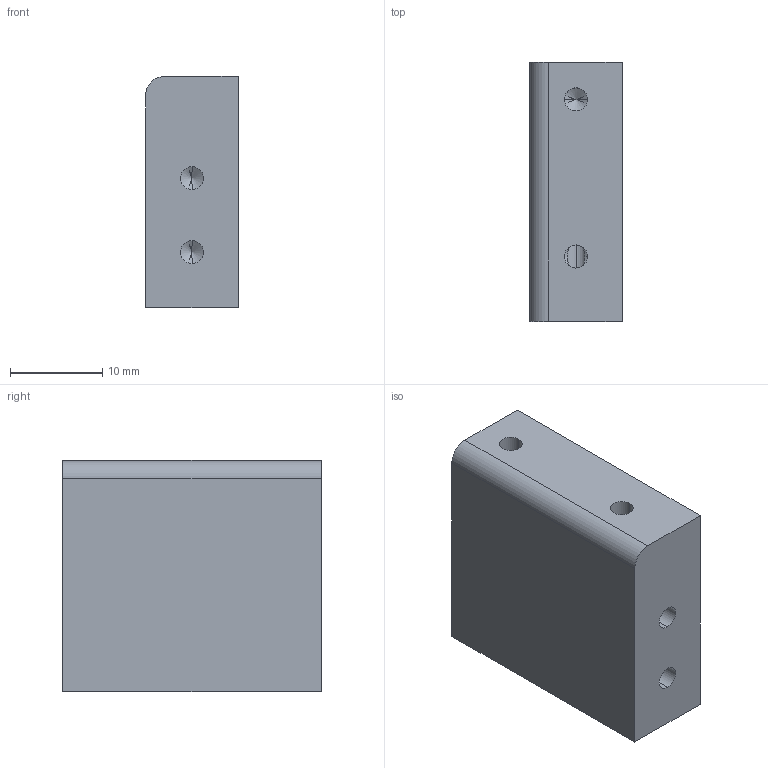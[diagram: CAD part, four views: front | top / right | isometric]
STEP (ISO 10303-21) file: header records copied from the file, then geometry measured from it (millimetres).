
FILE_DESCRIPTION (( 'STEP AP203' ), '1' );
FILE_NAME ('flat-spring-reference.STEP', '2024-07-01T06:57:33', ( '' ), ( '' ), 'SwSTEP 2.0', 'SolidWorks 2021', '' );
FILE_SCHEMA (( 'CONFIG_CONTROL_DESIGN' ));
Length unit declared in the file: millimetre
Products named in the file (1): flat-spring-reference
Bounding box: 10 x 28 x 25 mm (x, y, z)
Volume: 6776.4 mm3; surface area: 2742 mm2
Topology: 1 solids, 1 shells, 24 faces, 62 edges, 36 vertices
Faces by surface type: cone 9, cylinder 9, plane 6
Entity records: 782 total; most frequent: CARTESIAN_POINT 148, DIRECTION 119, ORIENTED_EDGE 112, EDGE_CURVE 56, AXIS2_PLACEMENT_3D 45, VERTEX_POINT 36, VECTOR 29, LINE 29
